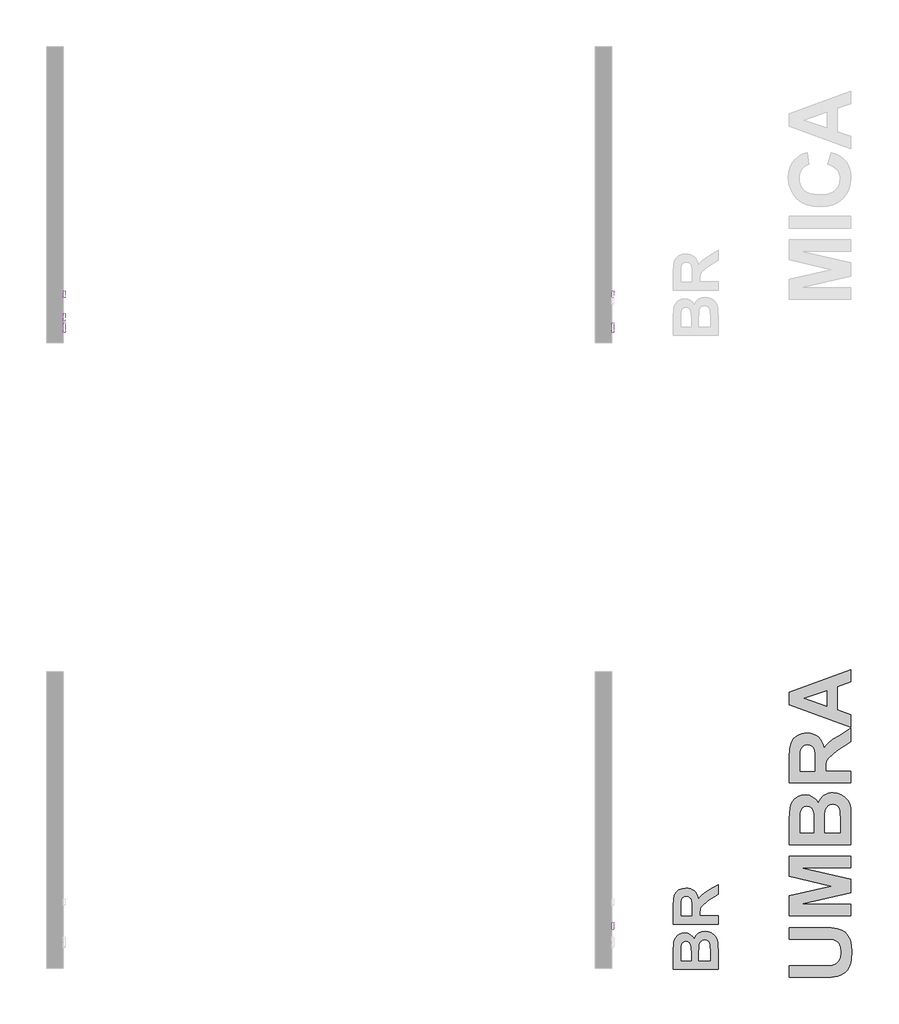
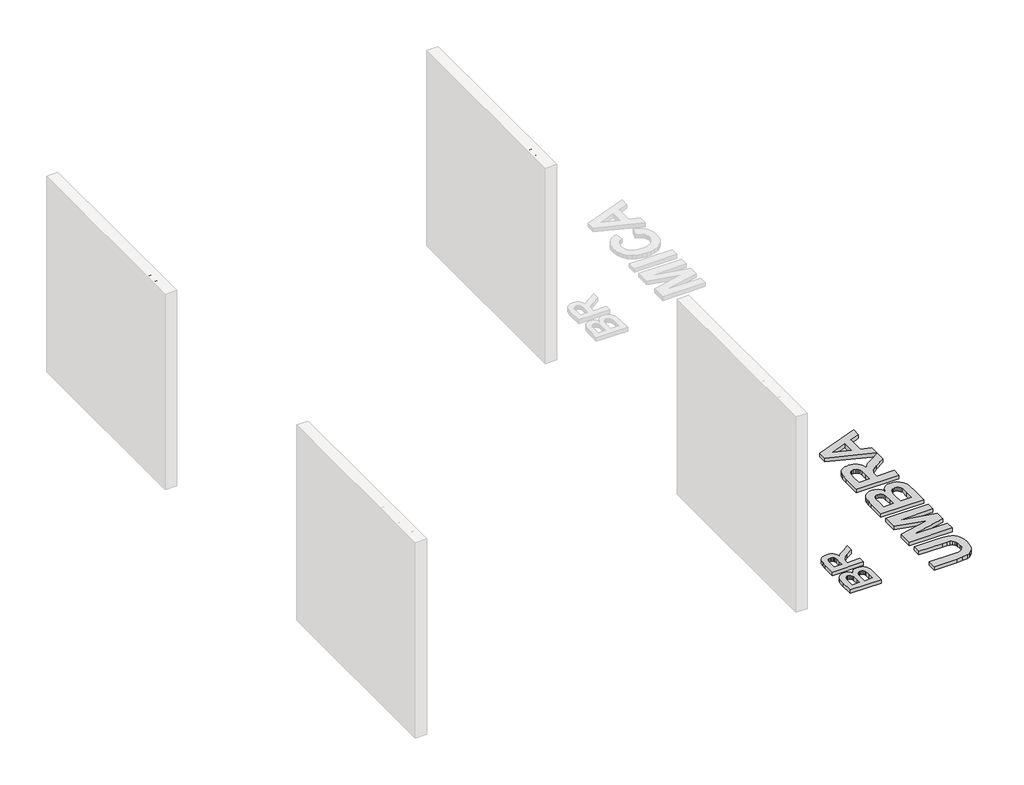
# One storey, part 9 of 10: 8 proxies.
"""IFC4 building model written with IfcOpenShell, lengths in millimetres."""

from ifc_helpers import new_model, si_unit, frame, origin, origin_with_axes, place, context, project, spatial, polyline, outline, extrude, element, save

model = new_model("IFC4")

# Units and contexts
model_context = context("Model", 3, world=origin())
ifc_project = project(units=[si_unit("LENGTHUNIT", "METRE", prefix="MILLI")], contexts=[model_context])

# Site, building, storey
site = spatial("IfcSite", under=ifc_project)
building = spatial("IfcBuilding", under=site)
storey = spatial("IfcBuildingStorey", under=building, Name="PORTOBELLO - SHOWROOM", Elevation=0.0)

# Proxies
placement = place(None, origin())
element("IfcBuildingElementProxy", 1, Name="10mm Arial", ObjectType="10mm Arial", at=placement, inside=storey, context=model_context, shape_type="SweptSolid", body=[
    extrude(outline(polyline([(20865.0222015, 2518.4745677), (20865.0222015, 2618.9308778), (20886.555561, 2618.9308778), (20907.1569527, 2548.1258565), (20911.326282, 2533.3370003), (20915.8144423, 2549.3521298), (20936.0234266, 2618.9308778), (20957.6303624, 2618.9308778), (20957.6303624, 2518.4745677), (20945.0733237, 2518.4745677), (20945.0733237, 2606.373839), (20919.8366188, 2518.4745677), (20902.8404706, 2518.4745677), (20877.5792403, 2606.373839), (20877.5792403, 2518.4745677), (20865.0222015, 2518.4745677)])), frame((-12116.0080774, 0.0, 0.0), z_axis=(1.0, 0.0, 0.0), x_axis=(0.0, 1.0, 0.0)), (0.0, 0.0, 1.0), 20.0),
    extrude(outline(polyline([(-12096.0080774, 20990.5925892), (-12096.0080774, 20978.0355504), (-12116.0080774, 20978.0355504), (-12116.0080774, 20990.5925892), (-12096.0080774, 20990.5925892)])), frame((0.0, 0.0, 2606.373839), z_axis=(0.0, 0.0, 1.0), x_axis=(1.0, 0.0, 0.0)), (0.0, 0.0, 1.0), 12.5570388),
    extrude(outline(polyline([(-12096.0080774, 20990.5925892), (-12096.0080774, 20978.0355504), (-12116.0080774, 20978.0355504), (-12116.0080774, 20990.5925892), (-12096.0080774, 20990.5925892)])), frame((0.0, 0.0, 2518.4745677), z_axis=(0.0, 0.0, 1.0), x_axis=(1.0, 0.0, 0.0)), (0.0, 0.0, 1.0), 73.7726028),
    extrude(outline(polyline([(21056.5170427, 2545.158275), (21069.0740815, 2543.5886452), (21065.5730712, 2532.420361), (21058.9941148, 2523.9805349), (21049.9564805, 2518.6738371), (21039.0794362, 2516.9049378), (21025.7222541, 2519.3728129), (21015.2774711, 2526.776438), (21008.5360335, 2538.7908508), (21006.2888877, 2555.0910889), (21010.1271231, 2575.949998), (21021.8257706, 2589.3531654), (21038.9077579, 2593.8168003), (21049.5180878, 2592.2839586), (21058.0008335, 2587.6854337), (21064.0862148, 2580.2664801), (21067.5044517, 2570.2723526), (21054.9474129, 2568.7027227), (21049.1226146, 2578.1082391), (21039.0058598, 2581.2597615), (21030.8909961, 2579.7085258), (21024.4499955, 2575.0548185), (21020.2469437, 2567.0472538), (21018.8459264, 2555.4344454), (21020.2162869, 2543.6652873), (21024.3273682, 2535.6301314), (21030.6518728, 2531.0040153), (21038.6625032, 2529.4619766), (21050.4960408, 2533.3124748), (21056.5170427, 2545.158275)])), frame((-12116.0080774, 0.0, 0.0), z_axis=(1.0, 0.0, 0.0), x_axis=(0.0, 1.0, 0.0)), (0.0, 0.0, 1.0), 20.0),
    extrude(outline(polyline([(21127.1503858, 2527.8923467), (21114.9734918, 2519.3820099), (21101.5212735, 2516.9049378), (21091.0274396, 2518.3948599), (21083.2865893, 2522.8646261), (21078.5133204, 2529.6520489), (21076.9222307, 2538.0949407), (21079.3257264, 2548.0277546), (21085.641034, 2555.2382417), (21094.4334137, 2559.3585201), (21105.2981953, 2561.246981), (21127.0768094, 2565.563463), (21127.1503858, 2568.3593662), (21123.6922951, 2577.6299925), (21109.8108811, 2581.2597615), (21097.1066895, 2578.8440031), (21091.0488994, 2570.2723526), (21078.4918606, 2571.8419824), (21083.9242514, 2584.1047156), (21094.8626094, 2591.2906772), (21111.4295619, 2593.8168003), (21126.6476138, 2591.5849828), (21135.2437897, 2585.9809138), (21139.0942879, 2577.4583142), (21139.7074246, 2566.4709053), (21139.7074246, 2550.8481832), (21140.3450867, 2529.0327809), (21142.8466843, 2518.4745677), (21130.2896455, 2518.4745677), (21127.1503858, 2527.8923467)]), holes=[polyline([(21127.1503858, 2553.0064243), (21106.8923506, 2549.1559261), (21096.0888827, 2547.1203124), (21091.1960522, 2543.8093744), (21089.4792695, 2538.9778575), (21093.2194031, 2532.1843033), (21104.1945493, 2529.4619766), (21116.8987409, 2532.4663462), (21125.0902466, 2539.738147), (21127.0768094, 2549.4502317), (21127.1503858, 2553.0064243)])]), frame((-12116.0080774, 0.0, 0.0), z_axis=(1.0, 0.0, 0.0), x_axis=(0.0, 1.0, 0.0)), (0.0, 0.0, 1.0), 20.0),
])
element("IfcBuildingElementProxy", 2, Name="10mm Arial", ObjectType="10mm Arial", at=placement, inside=storey, context=model_context, shape_type="SweptSolid", body=[
    extrude(outline(polyline([(20860.313312, 2410.158275), (20872.8703507, 2411.7279049), (20879.1979211, 2398.7907214), (20892.3190456, 2394.4619766), (20901.3198917, 2395.9672271), (20908.064395, 2400.4829786), (20912.2766438, 2407.4880649), (20913.6807267, 2416.4613199), (20908.4200142, 2431.3728034), (20901.8134667, 2435.4746877), (20892.5152493, 2436.8419824), (20881.4910522, 2434.6592159), (20874.4399806, 2428.9938332), (20861.8829418, 2430.563463), (20872.8703507, 2482.361248), (20921.528876, 2482.361248), (20921.528876, 2469.8042092), (20883.0238938, 2469.8042092), (20877.6282912, 2442.1394832), (20886.5984805, 2447.5841367), (20895.9978655, 2449.3990212), (20907.7333012, 2447.1488097), (20917.482174, 2440.3981751), (20924.0488676, 2430.1097419), (20926.2377655, 2417.2461348), (20924.2695968, 2404.6890961), (20918.3650908, 2393.9469418), (20907.0588508, 2384.9154388), (20892.2699946, 2381.9049378), (20879.9367507, 2383.839384), (20870.1112358, 2389.6427224), (20863.3759296, 2398.6405029), (20860.313312, 2410.158275)])), frame((-12116.0080774, 0.0, 0.0), z_axis=(1.0, 0.0, 0.0), x_axis=(0.0, 1.0, 0.0)), (0.0, 0.0, 1.0), 20.0),
    extrude(outline(polyline([(20943.5036938, 2383.4745677), (20943.5036938, 2396.0316064), (20956.0607326, 2396.0316064), (20956.0607326, 2383.4745677), (20953.8043897, 2370.635486), (20946.6429535, 2363.0693797), (20943.5036938, 2367.7782692), (20948.1144815, 2373.1983973), (20949.7576877, 2383.4745677), (20943.5036938, 2383.4745677)])), frame((-12116.0080774, 0.0, 0.0), z_axis=(1.0, 0.0, 0.0), x_axis=(0.0, 1.0, 0.0)), (0.0, 0.0, 1.0), 20.0),
    extrude(outline(polyline([(21017.2762966, 2383.4745677), (21017.2762966, 2407.0190154), (20971.7570311, 2407.0190154), (20971.7570311, 2419.5760541), (21020.4155563, 2482.361248), (21029.8333354, 2482.361248), (21029.8333354, 2419.5760541), (21042.3903741, 2419.5760541), (21042.3903741, 2407.0190154), (21029.8333354, 2407.0190154), (21029.8333354, 2383.4745677), (21017.2762966, 2383.4745677)]), holes=[polyline([(21017.2762966, 2419.5760541), (21017.2762966, 2458.3753419), (20987.2080748, 2419.5760541), (21017.2762966, 2419.5760541)])]), frame((-12116.0080774, 0.0, 0.0), z_axis=(1.0, 0.0, 0.0), x_axis=(0.0, 1.0, 0.0)), (0.0, 0.0, 1.0), 20.0),
    extrude(outline(polyline([(21048.6688935, 2383.4745677), (21075.4997537, 2420.5815982), (21050.2385234, 2457.2471704), (21065.2971597, 2457.2471704), (21077.4863165, 2439.5643092), (21083.2007501, 2431.2501761), (21088.1548943, 2438.0682557), (21102.0363083, 2457.2471704), (21117.1439955, 2457.2471704), (21090.607441, 2420.5570728), (21116.1629769, 2383.4745677), (21101.0798151, 2383.4745677), (21085.6778222, 2405.792742), (21082.8819191, 2409.8884949), (21063.7765808, 2383.4745677), (21048.6688935, 2383.4745677)])), frame((-12116.0080774, 0.0, 0.0), z_axis=(1.0, 0.0, 0.0), x_axis=(0.0, 1.0, 0.0)), (0.0, 0.0, 1.0), 20.0),
    extrude(outline(polyline([(21171.1000215, 2383.4745677), (21158.5429827, 2383.4745677), (21158.5429827, 2461.7598562), (21146.6481316, 2453.2863076), (21133.4289052, 2446.9464746), (21133.4289052, 2458.8168003), (21151.8352677, 2470.5644987), (21163.0066176, 2483.9308778), (21171.1000215, 2483.9308778), (21171.1000215, 2383.4745677)])), frame((-12116.0080774, 0.0, 0.0), z_axis=(1.0, 0.0, 0.0), x_axis=(0.0, 1.0, 0.0)), (0.0, 0.0, 1.0), 20.0),
    extrude(outline(polyline([(21248.011884, 2383.4745677), (21235.4548452, 2383.4745677), (21235.4548452, 2461.7598562), (21223.559994, 2453.2863076), (21210.3407677, 2446.9464746), (21210.3407677, 2458.8168003), (21228.7471301, 2470.5644987), (21239.9184801, 2483.9308778), (21248.011884, 2483.9308778), (21248.011884, 2383.4745677)])), frame((-12116.0080774, 0.0, 0.0), z_axis=(1.0, 0.0, 0.0), x_axis=(0.0, 1.0, 0.0)), (0.0, 0.0, 1.0), 20.0),
    extrude(outline(polyline([(21284.1133704, 2383.4745677), (21284.1133704, 2396.0316064), (21296.6704092, 2396.0316064), (21296.6704092, 2383.4745677), (21294.4140663, 2370.635486), (21287.2526301, 2363.0693797), (21284.1133704, 2367.7782692), (21288.7241581, 2373.1983973), (21290.3673643, 2383.4745677), (21284.1133704, 2383.4745677)])), frame((-12116.0080774, 0.0, 0.0), z_axis=(1.0, 0.0, 0.0), x_axis=(0.0, 1.0, 0.0)), (0.0, 0.0, 1.0), 20.0),
    extrude(outline(polyline([(21317.0755972, 2410.158275), (21329.632636, 2411.7279049), (21335.9602063, 2398.7907214), (21349.0813308, 2394.4619766), (21358.0821769, 2395.9672271), (21364.8266802, 2400.4829786), (21369.038929, 2407.4880649), (21370.443012, 2416.4613199), (21365.1822994, 2431.3728034), (21358.5757519, 2435.4746877), (21349.2775345, 2436.8419824), (21338.2533374, 2434.6592159), (21331.2022658, 2428.9938332), (21318.645227, 2430.563463), (21329.632636, 2482.361248), (21378.2911612, 2482.361248), (21378.2911612, 2469.8042092), (21339.786179, 2469.8042092), (21334.3905764, 2442.1394832), (21343.3607657, 2447.5841367), (21352.7601507, 2449.3990212), (21364.4955864, 2447.1488097), (21374.2444592, 2440.3981751), (21380.8111529, 2430.1097419), (21383.0000507, 2417.2461348), (21381.0318821, 2404.6890961), (21375.127376, 2393.9469418), (21363.821136, 2384.9154388), (21349.0322798, 2381.9049378), (21336.6990359, 2383.839384), (21326.873521, 2389.6427224), (21320.1382148, 2398.6405029), (21317.0755972, 2410.158275)])), frame((-12116.0080774, 0.0, 0.0), z_axis=(1.0, 0.0, 0.0), x_axis=(0.0, 1.0, 0.0)), (0.0, 0.0, 1.0), 20.0),
])
element("IfcBuildingElementProxy", 3, Name="10mm Arial", ObjectType="10mm Arial", at=placement, inside=storey, context=model_context, shape_type="SweptSolid", body=[
    extrude(outline(polyline([(20865.0222015, 2518.4745677), (20865.0222015, 2618.9308778), (20886.555561, 2618.9308778), (20907.1569527, 2548.1258565), (20911.326282, 2533.3370003), (20915.8144423, 2549.3521298), (20936.0234266, 2618.9308778), (20957.6303624, 2618.9308778), (20957.6303624, 2518.4745677), (20945.0733237, 2518.4745677), (20945.0733237, 2606.373839), (20919.8366188, 2518.4745677), (20902.8404706, 2518.4745677), (20877.5792403, 2606.373839), (20877.5792403, 2518.4745677), (20865.0222015, 2518.4745677)])), frame((-7116.0080774, 0.0, 0.0), z_axis=(1.0, 0.0, 0.0), x_axis=(0.0, 1.0, 0.0)), (0.0, 0.0, 1.0), 20.0),
    extrude(outline(polyline([(-7096.0080774, 20990.5925892), (-7096.0080774, 20978.0355504), (-7116.0080774, 20978.0355504), (-7116.0080774, 20990.5925892), (-7096.0080774, 20990.5925892)])), frame((0.0, 0.0, 2606.373839), z_axis=(0.0, 0.0, 1.0), x_axis=(1.0, 0.0, 0.0)), (0.0, 0.0, 1.0), 12.5570388),
    extrude(outline(polyline([(-7096.0080774, 20990.5925892), (-7096.0080774, 20978.0355504), (-7116.0080774, 20978.0355504), (-7116.0080774, 20990.5925892), (-7096.0080774, 20990.5925892)])), frame((0.0, 0.0, 2518.4745677), z_axis=(0.0, 0.0, 1.0), x_axis=(1.0, 0.0, 0.0)), (0.0, 0.0, 1.0), 73.7726028),
    extrude(outline(polyline([(21056.5170427, 2545.158275), (21069.0740815, 2543.5886452), (21065.5730712, 2532.420361), (21058.9941148, 2523.9805349), (21049.9564805, 2518.6738371), (21039.0794362, 2516.9049378), (21025.7222541, 2519.3728129), (21015.2774711, 2526.776438), (21008.5360335, 2538.7908508), (21006.2888877, 2555.0910889), (21010.1271231, 2575.949998), (21021.8257706, 2589.3531654), (21038.9077579, 2593.8168003), (21049.5180878, 2592.2839586), (21058.0008335, 2587.6854337), (21064.0862148, 2580.2664801), (21067.5044517, 2570.2723526), (21054.9474129, 2568.7027227), (21049.1226146, 2578.1082391), (21039.0058598, 2581.2597615), (21030.8909961, 2579.7085258), (21024.4499955, 2575.0548185), (21020.2469437, 2567.0472538), (21018.8459264, 2555.4344454), (21020.2162869, 2543.6652873), (21024.3273682, 2535.6301314), (21030.6518728, 2531.0040153), (21038.6625032, 2529.4619766), (21050.4960408, 2533.3124748), (21056.5170427, 2545.158275)])), frame((-7116.0080774, 0.0, 0.0), z_axis=(1.0, 0.0, 0.0), x_axis=(0.0, 1.0, 0.0)), (0.0, 0.0, 1.0), 20.0),
    extrude(outline(polyline([(21127.1503858, 2527.8923467), (21114.9734918, 2519.3820099), (21101.5212735, 2516.9049378), (21091.0274396, 2518.3948599), (21083.2865893, 2522.8646261), (21078.5133204, 2529.6520489), (21076.9222307, 2538.0949407), (21079.3257264, 2548.0277546), (21085.641034, 2555.2382417), (21094.4334137, 2559.3585201), (21105.2981953, 2561.246981), (21127.0768094, 2565.563463), (21127.1503858, 2568.3593662), (21123.6922951, 2577.6299925), (21109.8108811, 2581.2597615), (21097.1066895, 2578.8440031), (21091.0488994, 2570.2723526), (21078.4918606, 2571.8419824), (21083.9242514, 2584.1047156), (21094.8626094, 2591.2906772), (21111.4295619, 2593.8168003), (21126.6476138, 2591.5849828), (21135.2437897, 2585.9809138), (21139.0942879, 2577.4583142), (21139.7074246, 2566.4709053), (21139.7074246, 2550.8481832), (21140.3450867, 2529.0327809), (21142.8466843, 2518.4745677), (21130.2896455, 2518.4745677), (21127.1503858, 2527.8923467)]), holes=[polyline([(21127.1503858, 2553.0064243), (21106.8923506, 2549.1559261), (21096.0888827, 2547.1203124), (21091.1960522, 2543.8093744), (21089.4792695, 2538.9778575), (21093.2194031, 2532.1843033), (21104.1945493, 2529.4619766), (21116.8987409, 2532.4663462), (21125.0902466, 2539.738147), (21127.0768094, 2549.4502317), (21127.1503858, 2553.0064243)])]), frame((-7116.0080774, 0.0, 0.0), z_axis=(1.0, 0.0, 0.0), x_axis=(0.0, 1.0, 0.0)), (0.0, 0.0, 1.0), 20.0),
])
element("IfcBuildingElementProxy", 4, Name="10mm Arial", ObjectType="10mm Arial", at=placement, inside=storey, context=model_context, shape_type="SweptSolid", body=[
    extrude(outline(polyline([(15207.4022074, 2383.4745677), (15194.8451686, 2383.4745677), (15194.8451686, 2461.7598562), (15182.9503174, 2453.2863076), (15169.7310911, 2446.9464746), (15169.7310911, 2458.8168003), (15188.1374535, 2470.5644987), (15199.3088035, 2483.9308778), (15207.4022074, 2483.9308778), (15207.4022074, 2383.4745677)])), frame((-7116.0080774, 0.0, 0.0), z_axis=(1.0, 0.0, 0.0), x_axis=(0.0, 1.0, 0.0)), (0.0, 0.0, 1.0), 20.0),
    extrude(outline(polyline([(15284.3140698, 2383.4745677), (15271.7570311, 2383.4745677), (15271.7570311, 2461.7598562), (15259.8621799, 2453.2863076), (15246.6429535, 2446.9464746), (15246.6429535, 2458.8168003), (15265.049316, 2470.5644987), (15276.2206659, 2483.9308778), (15284.3140698, 2483.9308778), (15284.3140698, 2383.4745677)])), frame((-7116.0080774, 0.0, 0.0), z_axis=(1.0, 0.0, 0.0), x_axis=(0.0, 1.0, 0.0)), (0.0, 0.0, 1.0), 20.0),
    extrude(outline(polyline([(15320.4155563, 2383.4745677), (15320.4155563, 2396.0316064), (15332.972595, 2396.0316064), (15332.972595, 2383.4745677), (15330.7162521, 2370.635486), (15323.554816, 2363.0693797), (15320.4155563, 2367.7782692), (15325.026344, 2373.1983973), (15326.6695502, 2383.4745677), (15320.4155563, 2383.4745677)])), frame((-7116.0080774, 0.0, 0.0), z_axis=(1.0, 0.0, 0.0), x_axis=(0.0, 1.0, 0.0)), (0.0, 0.0, 1.0), 20.0),
    extrude(outline(polyline([(15353.377783, 2410.158275), (15365.9348218, 2411.7279049), (15372.2623921, 2398.7907214), (15385.3835166, 2394.4619766), (15394.3843628, 2395.9672271), (15401.128866, 2400.4829786), (15405.3411149, 2407.4880649), (15406.7451978, 2416.4613199), (15401.4844853, 2431.3728034), (15394.8779378, 2435.4746877), (15385.5797204, 2436.8419824), (15374.5555232, 2434.6592159), (15367.5044517, 2428.9938332), (15354.9474129, 2430.563463), (15365.9348218, 2482.361248), (15414.593347, 2482.361248), (15414.593347, 2469.8042092), (15376.0883649, 2469.8042092), (15370.6927623, 2442.1394832), (15379.6629516, 2447.5841367), (15389.0623366, 2449.3990212), (15400.7977722, 2447.1488097), (15410.5466451, 2440.3981751), (15417.1133387, 2430.1097419), (15419.3022366, 2417.2461348), (15417.3340679, 2404.6890961), (15411.4295619, 2393.9469418), (15400.1233219, 2384.9154388), (15385.3344657, 2381.9049378), (15373.0012218, 2383.839384), (15363.1757069, 2389.6427224), (15356.4404007, 2398.6405029), (15353.377783, 2410.158275)])), frame((-7116.0080774, 0.0, 0.0), z_axis=(1.0, 0.0, 0.0), x_axis=(0.0, 1.0, 0.0)), (0.0, 0.0, 1.0), 20.0),
    extrude(outline(polyline([(15425.580756, 2383.4745677), (15452.4116161, 2420.5815982), (15427.1503858, 2457.2471704), (15442.2090221, 2457.2471704), (15454.3981789, 2439.5643092), (15460.1126126, 2431.2501761), (15465.0667568, 2438.0682557), (15478.9481707, 2457.2471704), (15494.055858, 2457.2471704), (15467.5193034, 2420.5570728), (15493.0748393, 2383.4745677), (15477.9916775, 2383.4745677), (15462.5896847, 2405.792742), (15459.7937815, 2409.8884949), (15440.6884432, 2383.4745677), (15425.580756, 2383.4745677)])), frame((-7116.0080774, 0.0, 0.0), z_axis=(1.0, 0.0, 0.0), x_axis=(0.0, 1.0, 0.0)), (0.0, 0.0, 1.0), 20.0),
    extrude(outline(polyline([(15548.011884, 2383.4745677), (15535.4548452, 2383.4745677), (15535.4548452, 2461.7598562), (15523.559994, 2453.2863076), (15510.3407677, 2446.9464746), (15510.3407677, 2458.8168003), (15528.7471301, 2470.5644987), (15539.9184801, 2483.9308778), (15548.011884, 2483.9308778), (15548.011884, 2383.4745677)])), frame((-7116.0080774, 0.0, 0.0), z_axis=(1.0, 0.0, 0.0), x_axis=(0.0, 1.0, 0.0)), (0.0, 0.0, 1.0), 20.0),
    extrude(outline(polyline([(15624.9237464, 2383.4745677), (15612.3667077, 2383.4745677), (15612.3667077, 2461.7598562), (15600.4718565, 2453.2863076), (15587.2526301, 2446.9464746), (15587.2526301, 2458.8168003), (15605.6589926, 2470.5644987), (15616.8303425, 2483.9308778), (15624.9237464, 2483.9308778), (15624.9237464, 2383.4745677)])), frame((-7116.0080774, 0.0, 0.0), z_axis=(1.0, 0.0, 0.0), x_axis=(0.0, 1.0, 0.0)), (0.0, 0.0, 1.0), 20.0),
    extrude(outline(polyline([(15661.0252329, 2383.4745677), (15661.0252329, 2396.0316064), (15673.5822716, 2396.0316064), (15673.5822716, 2383.4745677), (15671.3259287, 2370.635486), (15664.1644926, 2363.0693797), (15661.0252329, 2367.7782692), (15665.6360206, 2373.1983973), (15667.2792268, 2383.4745677), (15661.0252329, 2383.4745677)])), frame((-7116.0080774, 0.0, 0.0), z_axis=(1.0, 0.0, 0.0), x_axis=(0.0, 1.0, 0.0)), (0.0, 0.0, 1.0), 20.0),
    extrude(outline(polyline([(15693.9874596, 2410.158275), (15706.5444984, 2411.7279049), (15712.8720687, 2398.7907214), (15725.9931932, 2394.4619766), (15734.9940394, 2395.9672271), (15741.7385426, 2400.4829786), (15745.9507915, 2407.4880649), (15747.3548744, 2416.4613199), (15742.0941619, 2431.3728034), (15735.4876144, 2435.4746877), (15726.189397, 2436.8419824), (15715.1651998, 2434.6592159), (15708.1141283, 2428.9938332), (15695.5570895, 2430.563463), (15706.5444984, 2482.361248), (15755.2030236, 2482.361248), (15755.2030236, 2469.8042092), (15716.6980415, 2469.8042092), (15711.3024389, 2442.1394832), (15720.2726282, 2447.5841367), (15729.6720132, 2449.3990212), (15741.4074488, 2447.1488097), (15751.1563217, 2440.3981751), (15757.7230153, 2430.1097419), (15759.9119132, 2417.2461348), (15757.9437445, 2404.6890961), (15752.0392385, 2393.9469418), (15740.7329985, 2384.9154388), (15725.9441423, 2381.9049378), (15713.6108984, 2383.839384), (15703.7853835, 2389.6427224), (15697.0500773, 2398.6405029), (15693.9874596, 2410.158275)])), frame((-7116.0080774, 0.0, 0.0), z_axis=(1.0, 0.0, 0.0), x_axis=(0.0, 1.0, 0.0)), (0.0, 0.0, 1.0), 20.0),
])
element("IfcBuildingElementProxy", 5, Name="10mm Arial Narrow", ObjectType="10mm Arial Narrow", at=placement, inside=storey, context=model_context, shape_type="SweptSolid", body=[
    extrude(outline(polyline([(21186.9277964, 2518.4745677), (21186.9277964, 2615.7916181), (21217.1676964, 2615.7916181), (21232.9130458, 2613.9767336), (21243.9985566, 2604.8164719), (21248.1433604, 2588.3721467), (21246.4173807, 2576.7041561), (21241.2394416, 2567.402873), (21231.8247282, 2561.314426), (21217.3884256, 2559.2849437), (21196.3455754, 2559.2849437), (21196.3455754, 2518.4745677), (21186.9277964, 2518.4745677)]), holes=[polyline([(21196.3455754, 2570.2723526), (21218.5411225, 2570.2723526), (21233.869539, 2574.6501483), (21238.7255813, 2587.857112), (21236.3343483, 2597.6795612), (21230.558601, 2603.2836303), (21218.3203933, 2604.8042092), (21196.3455754, 2604.8042092), (21196.3455754, 2570.2723526)])]), frame((-12116.0080774, 0.0, 0.0), z_axis=(1.0, 0.0, 0.0), x_axis=(0.0, 1.0, 0.0)), (0.0, 0.0, 1.0), 20.0),
    extrude(outline(polyline([(21255.9915096, 2553.7912392), (21257.8799705, 2569.8216971), (21263.5453532, 2581.3701261), (21272.104741, 2588.350687), (21282.675217, 2590.6775406), (21293.1230656, 2588.350687), (21301.7069789, 2581.3701261), (21307.445938, 2570.0056381), (21309.3589244, 2554.5270032), (21307.4796605, 2537.9447223), (21301.8418689, 2526.2123523), (21293.2916782, 2519.2317914), (21282.675217, 2516.9049378), (21272.1813831, 2519.2379228), (21263.6066669, 2526.2368778), (21257.8952989, 2537.7914381), (21255.9915096, 2553.7912392)]), holes=[polyline([(21265.4092887, 2553.8157647), (21266.6692845, 2541.6879216), (21270.449272, 2533.1162711), (21276.093195, 2528.0211054), (21282.9449971, 2526.3227169), (21289.4381143, 2528.0364339), (21294.9379502, 2533.1775847), (21298.6903465, 2541.7645636), (21299.9411453, 2553.8157647), (21298.6811495, 2565.9068196), (21294.901162, 2574.4662073), (21289.257239, 2579.561373), (21282.4054369, 2581.2597615), (21275.8663344, 2579.5521759), (21270.3756956, 2574.4294191), (21266.6508904, 2565.8608343), (21265.4092887, 2553.8157647)])]), frame((-12116.0080774, 0.0, 0.0), z_axis=(1.0, 0.0, 0.0), x_axis=(0.0, 1.0, 0.0)), (0.0, 0.0, 1.0), 20.0),
    extrude(outline(polyline([(21378.4226376, 2526.3227169), (21379.9922674, 2516.9049378), (21372.8798822, 2516.9049378), (21364.8845802, 2518.9528143), (21360.7152509, 2524.5568833), (21359.5870794, 2538.7080774), (21359.5870794, 2579.6901317), (21351.7389302, 2579.6901317), (21351.7389302, 2582.8293914), (21350.1693004, 2578.1205018), (21342.8607114, 2579.6901317), (21336.9868622, 2577.4460515), (21333.2467286, 2571.1797948), (21331.3337422, 2556.2928368), (21331.3337422, 2518.4745677), (21321.9159631, 2518.4745677), (21321.9159631, 2589.1079107), (21331.3337422, 2589.1079107), (21331.3337422, 2579.7391826), (21337.3670069, 2588.5192995), (21343.5474244, 2590.6775406), (21351.7389302, 2589.1079107), (21359.5870794, 2589.1079107), (21359.5870794, 2604.8042092), (21369.0048585, 2612.6523584), (21369.0048585, 2589.1079107), (21378.4226376, 2589.1079107), (21378.4226376, 2579.6901317), (21369.0048585, 2579.6901317), (21369.0048585, 2536.5498364), (21369.8387244, 2528.8243145), (21374.3023592, 2526.3227169), (21378.4226376, 2526.3227169)])), frame((-12116.0080774, 0.0, 0.0), z_axis=(1.0, 0.0, 0.0), x_axis=(0.0, 1.0, 0.0)), (0.0, 0.0, 1.0), 20.0),
    extrude(outline(polyline([(21384.701157, 2553.7912392), (21386.5896179, 2569.8216971), (21392.2550006, 2581.3701261), (21400.8143884, 2588.350687), (21411.3848644, 2590.6775406), (21421.832713, 2588.350687), (21430.4166262, 2581.3701261), (21436.1555854, 2570.0056381), (21438.0685717, 2554.5270032), (21436.1893079, 2537.9447223), (21430.5515163, 2526.2123523), (21422.0013256, 2519.2317914), (21411.3848644, 2516.9049378), (21400.8910304, 2519.2379228), (21392.3163143, 2526.2368778), (21386.6049463, 2537.7914381), (21384.701157, 2553.7912392)]), holes=[polyline([(21394.1189361, 2553.8157647), (21395.3789319, 2541.6879216), (21399.1589194, 2533.1162711), (21404.8028423, 2528.0211054), (21411.6546445, 2526.3227169), (21418.1477617, 2528.0364339), (21423.6475975, 2533.1775847), (21427.3999939, 2541.7645636), (21428.6507927, 2553.8157647), (21427.3907968, 2565.9068196), (21423.6108093, 2574.4662073), (21417.9668864, 2579.561373), (21411.1150842, 2581.2597615), (21404.5759818, 2579.5521759), (21399.085343, 2574.4294191), (21395.3605378, 2565.8608343), (21394.1189361, 2553.8157647)])]), frame((-12116.0080774, 0.0, 0.0), z_axis=(1.0, 0.0, 0.0), x_axis=(0.0, 1.0, 0.0)), (0.0, 0.0, 1.0), 20.0),
    extrude(outline(polyline([(21460.0433896, 2518.4745677), (21450.6256105, 2518.4745677), (21450.6256105, 2615.7916181), (21460.0433896, 2615.7916181), (21460.0433896, 2581.5785926), (21467.192563, 2588.4211977), (21476.0830446, 2590.6775406), (21488.5297187, 2586.6185759), (21497.4937767, 2574.3190545), (21500.8537656, 2554.3307995), (21498.9867645, 2538.4321659), (21493.3857611, 2526.641548), (21485.2954229, 2519.3390904), (21475.9604172, 2516.9049378), (21466.9350456, 2519.4310609), (21460.0433896, 2526.9358536), (21460.0433896, 2518.4745677)]), holes=[polyline([(21460.0433896, 2554.3307995), (21462.0544778, 2537.6657451), (21467.744386, 2529.2289847), (21475.9113663, 2526.3227169), (21481.6533911, 2528.0517623), (21486.7148342, 2533.2388984), (21491.4359865, 2553.938392), (21486.8865125, 2574.6501483), (21481.818938, 2579.6073582), (21475.7151626, 2581.2597615), (21469.9394153, 2579.5307161), (21464.8258555, 2574.34358), (21460.0433896, 2554.3307995)])]), frame((-12116.0080774, 0.0, 0.0), z_axis=(1.0, 0.0, 0.0), x_axis=(0.0, 1.0, 0.0)), (0.0, 0.0, 1.0), 20.0),
    extrude(outline(polyline([(21551.0819207, 2540.4493855), (21560.4996997, 2538.8797557), (21551.3026499, 2522.4476932), (21534.8215365, 2516.9049378), (21523.6195297, 2519.2379228), (21514.7842305, 2526.2368778), (21509.0452713, 2537.6442853), (21507.132285, 2553.202628), (21509.0544684, 2569.3066623), (21514.8210187, 2581.0758205), (21523.5306249, 2588.2771106), (21534.2819762, 2590.6775406), (21544.6041319, 2588.359884), (21553.0562207, 2581.4069143), (21558.6940123, 2570.0638861), (21560.5732761, 2554.5760541), (21560.4996997, 2551.4367944), (21516.550064, 2551.4367944), (21522.3503368, 2532.6502872), (21528.0800989, 2527.9046095), (21534.9441638, 2526.3227169), (21544.7788758, 2529.854384), (21551.0819207, 2540.4493855)]), holes=[polyline([(21517.1877262, 2560.8545735), (21551.0819207, 2560.8545735), (21546.9616423, 2574.6378856), (21541.3330478, 2579.6042925), (21534.3555526, 2581.2597615), (21522.5588033, 2575.7415316), (21517.1877262, 2560.8545735)])]), frame((-12116.0080774, 0.0, 0.0), z_axis=(1.0, 0.0, 0.0), x_axis=(0.0, 1.0, 0.0)), (0.0, 0.0, 1.0), 20.0),
    extrude(outline(polyline([(-12096.0080774, 21582.4745176), (-12096.0080774, 21573.0567385), (-12116.0080774, 21573.0567385), (-12116.0080774, 21582.4745176), (-12096.0080774, 21582.4745176)])), frame((0.0, 0.0, 2518.4745677), z_axis=(0.0, 0.0, 1.0), x_axis=(1.0, 0.0, 0.0)), (0.0, 0.0, 1.0), 97.3170505),
    extrude(outline(polyline([(-12096.0080774, 21607.5885951), (-12096.0080774, 21598.170816), (-12116.0080774, 21598.170816), (-12116.0080774, 21607.5885951), (-12096.0080774, 21607.5885951)])), frame((0.0, 0.0, 2518.4745677), z_axis=(0.0, 0.0, 1.0), x_axis=(1.0, 0.0, 0.0)), (0.0, 0.0, 1.0), 97.3170505),
    extrude(outline(polyline([(21618.576004, 2553.7912392), (21620.464465, 2569.8216971), (21626.1298477, 2581.3701261), (21634.6892354, 2588.350687), (21645.2597114, 2590.6775406), (21655.7075601, 2588.350687), (21664.2914733, 2581.3701261), (21670.0304324, 2570.0056381), (21671.9434188, 2554.5270032), (21670.064155, 2537.9447223), (21664.4263634, 2526.2123523), (21655.8761727, 2519.2317914), (21645.2597114, 2516.9049378), (21634.7658775, 2519.2379228), (21626.1911613, 2526.2368778), (21620.4797934, 2537.7914381), (21618.576004, 2553.7912392)]), holes=[polyline([(21627.9937831, 2553.8157647), (21629.253779, 2541.6879216), (21633.0337665, 2533.1162711), (21638.6776894, 2528.0211054), (21645.5294916, 2526.3227169), (21652.0226088, 2528.0364339), (21657.5224446, 2533.1775847), (21661.274841, 2541.7645636), (21662.5256397, 2553.8157647), (21661.2656439, 2565.9068196), (21657.4856564, 2574.4662073), (21651.8417335, 2579.561373), (21644.9899313, 2581.2597615), (21638.4508288, 2579.5521759), (21632.9601901, 2574.4294191), (21629.2353849, 2565.8608343), (21627.9937831, 2553.8157647)])]), frame((-12116.0080774, 0.0, 0.0), z_axis=(1.0, 0.0, 0.0), x_axis=(0.0, 1.0, 0.0)), (0.0, 0.0, 1.0), 20.0),
])
element("IfcBuildingElementProxy", 6, Name="10mm Arial Narrow", ObjectType="10mm Arial Narrow", at=placement, inside=storey, context=model_context, shape_type="SweptSolid", body=[
    extrude(outline(polyline([(21186.9277964, 2518.4745677), (21186.9277964, 2615.7916181), (21217.1676964, 2615.7916181), (21232.9130458, 2613.9767336), (21243.9985566, 2604.8164719), (21248.1433604, 2588.3721467), (21246.4173807, 2576.7041561), (21241.2394416, 2567.402873), (21231.8247282, 2561.314426), (21217.3884256, 2559.2849437), (21196.3455754, 2559.2849437), (21196.3455754, 2518.4745677), (21186.9277964, 2518.4745677)]), holes=[polyline([(21196.3455754, 2570.2723526), (21218.5411225, 2570.2723526), (21233.869539, 2574.6501483), (21238.7255813, 2587.857112), (21236.3343483, 2597.6795612), (21230.558601, 2603.2836303), (21218.3203933, 2604.8042092), (21196.3455754, 2604.8042092), (21196.3455754, 2570.2723526)])]), frame((-7116.0080774, 0.0, 0.0), z_axis=(1.0, 0.0, 0.0), x_axis=(0.0, 1.0, 0.0)), (0.0, 0.0, 1.0), 20.0),
    extrude(outline(polyline([(21255.9915096, 2553.7912392), (21257.8799705, 2569.8216971), (21263.5453532, 2581.3701261), (21272.104741, 2588.350687), (21282.675217, 2590.6775406), (21293.1230656, 2588.350687), (21301.7069789, 2581.3701261), (21307.445938, 2570.0056381), (21309.3589244, 2554.5270032), (21307.4796605, 2537.9447223), (21301.8418689, 2526.2123523), (21293.2916782, 2519.2317914), (21282.675217, 2516.9049378), (21272.1813831, 2519.2379228), (21263.6066669, 2526.2368778), (21257.8952989, 2537.7914381), (21255.9915096, 2553.7912392)]), holes=[polyline([(21265.4092887, 2553.8157647), (21266.6692845, 2541.6879216), (21270.449272, 2533.1162711), (21276.093195, 2528.0211054), (21282.9449971, 2526.3227169), (21289.4381143, 2528.0364339), (21294.9379502, 2533.1775847), (21298.6903465, 2541.7645636), (21299.9411453, 2553.8157647), (21298.6811495, 2565.9068196), (21294.901162, 2574.4662073), (21289.257239, 2579.561373), (21282.4054369, 2581.2597615), (21275.8663344, 2579.5521759), (21270.3756956, 2574.4294191), (21266.6508904, 2565.8608343), (21265.4092887, 2553.8157647)])]), frame((-7116.0080774, 0.0, 0.0), z_axis=(1.0, 0.0, 0.0), x_axis=(0.0, 1.0, 0.0)), (0.0, 0.0, 1.0), 20.0),
    extrude(outline(polyline([(21378.4226376, 2526.3227169), (21379.9922674, 2516.9049378), (21372.8798822, 2516.9049378), (21364.8845802, 2518.9528143), (21360.7152509, 2524.5568833), (21359.5870794, 2538.7080774), (21359.5870794, 2579.6901317), (21351.7389302, 2579.6901317), (21351.7389302, 2582.8293914), (21350.1693004, 2578.1205018), (21342.8607114, 2579.6901317), (21336.9868622, 2577.4460515), (21333.2467286, 2571.1797948), (21331.3337422, 2556.2928368), (21331.3337422, 2518.4745677), (21321.9159631, 2518.4745677), (21321.9159631, 2589.1079107), (21331.3337422, 2589.1079107), (21331.3337422, 2579.7391826), (21337.3670069, 2588.5192995), (21343.5474244, 2590.6775406), (21351.7389302, 2589.1079107), (21359.5870794, 2589.1079107), (21359.5870794, 2604.8042092), (21369.0048585, 2612.6523584), (21369.0048585, 2589.1079107), (21378.4226376, 2589.1079107), (21378.4226376, 2579.6901317), (21369.0048585, 2579.6901317), (21369.0048585, 2536.5498364), (21369.8387244, 2528.8243145), (21374.3023592, 2526.3227169), (21378.4226376, 2526.3227169)])), frame((-7116.0080774, 0.0, 0.0), z_axis=(1.0, 0.0, 0.0), x_axis=(0.0, 1.0, 0.0)), (0.0, 0.0, 1.0), 20.0),
    extrude(outline(polyline([(21384.701157, 2553.7912392), (21386.5896179, 2569.8216971), (21392.2550006, 2581.3701261), (21400.8143884, 2588.350687), (21411.3848644, 2590.6775406), (21421.832713, 2588.350687), (21430.4166262, 2581.3701261), (21436.1555854, 2570.0056381), (21438.0685717, 2554.5270032), (21436.1893079, 2537.9447223), (21430.5515163, 2526.2123523), (21422.0013256, 2519.2317914), (21411.3848644, 2516.9049378), (21400.8910304, 2519.2379228), (21392.3163143, 2526.2368778), (21386.6049463, 2537.7914381), (21384.701157, 2553.7912392)]), holes=[polyline([(21394.1189361, 2553.8157647), (21395.3789319, 2541.6879216), (21399.1589194, 2533.1162711), (21404.8028423, 2528.0211054), (21411.6546445, 2526.3227169), (21418.1477617, 2528.0364339), (21423.6475975, 2533.1775847), (21427.3999939, 2541.7645636), (21428.6507927, 2553.8157647), (21427.3907968, 2565.9068196), (21423.6108093, 2574.4662073), (21417.9668864, 2579.561373), (21411.1150842, 2581.2597615), (21404.5759818, 2579.5521759), (21399.085343, 2574.4294191), (21395.3605378, 2565.8608343), (21394.1189361, 2553.8157647)])]), frame((-7116.0080774, 0.0, 0.0), z_axis=(1.0, 0.0, 0.0), x_axis=(0.0, 1.0, 0.0)), (0.0, 0.0, 1.0), 20.0),
    extrude(outline(polyline([(21460.0433896, 2518.4745677), (21450.6256105, 2518.4745677), (21450.6256105, 2615.7916181), (21460.0433896, 2615.7916181), (21460.0433896, 2581.5785926), (21467.192563, 2588.4211977), (21476.0830446, 2590.6775406), (21488.5297187, 2586.6185759), (21497.4937767, 2574.3190545), (21500.8537656, 2554.3307995), (21498.9867645, 2538.4321659), (21493.3857611, 2526.641548), (21485.2954229, 2519.3390904), (21475.9604172, 2516.9049378), (21466.9350456, 2519.4310609), (21460.0433896, 2526.9358536), (21460.0433896, 2518.4745677)]), holes=[polyline([(21460.0433896, 2554.3307995), (21462.0544778, 2537.6657451), (21467.744386, 2529.2289847), (21475.9113663, 2526.3227169), (21481.6533911, 2528.0517623), (21486.7148342, 2533.2388984), (21491.4359865, 2553.938392), (21486.8865125, 2574.6501483), (21481.818938, 2579.6073582), (21475.7151626, 2581.2597615), (21469.9394153, 2579.5307161), (21464.8258555, 2574.34358), (21460.0433896, 2554.3307995)])]), frame((-7116.0080774, 0.0, 0.0), z_axis=(1.0, 0.0, 0.0), x_axis=(0.0, 1.0, 0.0)), (0.0, 0.0, 1.0), 20.0),
    extrude(outline(polyline([(21551.0819207, 2540.4493855), (21560.4996997, 2538.8797557), (21551.3026499, 2522.4476932), (21534.8215365, 2516.9049378), (21523.6195297, 2519.2379228), (21514.7842305, 2526.2368778), (21509.0452713, 2537.6442853), (21507.132285, 2553.202628), (21509.0544684, 2569.3066623), (21514.8210187, 2581.0758205), (21523.5306249, 2588.2771106), (21534.2819762, 2590.6775406), (21544.6041319, 2588.359884), (21553.0562207, 2581.4069143), (21558.6940123, 2570.0638861), (21560.5732761, 2554.5760541), (21560.4996997, 2551.4367944), (21516.550064, 2551.4367944), (21522.3503368, 2532.6502872), (21528.0800989, 2527.9046095), (21534.9441638, 2526.3227169), (21544.7788758, 2529.854384), (21551.0819207, 2540.4493855)]), holes=[polyline([(21517.1877262, 2560.8545735), (21551.0819207, 2560.8545735), (21546.9616423, 2574.6378856), (21541.3330478, 2579.6042925), (21534.3555526, 2581.2597615), (21522.5588033, 2575.7415316), (21517.1877262, 2560.8545735)])]), frame((-7116.0080774, 0.0, 0.0), z_axis=(1.0, 0.0, 0.0), x_axis=(0.0, 1.0, 0.0)), (0.0, 0.0, 1.0), 20.0),
    extrude(outline(polyline([(-7096.0080774, 21582.4745176), (-7096.0080774, 21573.0567385), (-7116.0080774, 21573.0567385), (-7116.0080774, 21582.4745176), (-7096.0080774, 21582.4745176)])), frame((0.0, 0.0, 2518.4745677), z_axis=(0.0, 0.0, 1.0), x_axis=(1.0, 0.0, 0.0)), (0.0, 0.0, 1.0), 97.3170505),
    extrude(outline(polyline([(-7096.0080774, 21607.5885951), (-7096.0080774, 21598.170816), (-7116.0080774, 21598.170816), (-7116.0080774, 21607.5885951), (-7096.0080774, 21607.5885951)])), frame((0.0, 0.0, 2518.4745677), z_axis=(0.0, 0.0, 1.0), x_axis=(1.0, 0.0, 0.0)), (0.0, 0.0, 1.0), 97.3170505),
    extrude(outline(polyline([(21618.576004, 2553.7912392), (21620.464465, 2569.8216971), (21626.1298477, 2581.3701261), (21634.6892354, 2588.350687), (21645.2597114, 2590.6775406), (21655.7075601, 2588.350687), (21664.2914733, 2581.3701261), (21670.0304324, 2570.0056381), (21671.9434188, 2554.5270032), (21670.064155, 2537.9447223), (21664.4263634, 2526.2123523), (21655.8761727, 2519.2317914), (21645.2597114, 2516.9049378), (21634.7658775, 2519.2379228), (21626.1911613, 2526.2368778), (21620.4797934, 2537.7914381), (21618.576004, 2553.7912392)]), holes=[polyline([(21627.9937831, 2553.8157647), (21629.253779, 2541.6879216), (21633.0337665, 2533.1162711), (21638.6776894, 2528.0211054), (21645.5294916, 2526.3227169), (21652.0226088, 2528.0364339), (21657.5224446, 2533.1775847), (21661.274841, 2541.7645636), (21662.5256397, 2553.8157647), (21661.2656439, 2565.9068196), (21657.4856564, 2574.4662073), (21651.8417335, 2579.561373), (21644.9899313, 2581.2597615), (21638.4508288, 2579.5521759), (21632.9601901, 2574.4294191), (21629.2353849, 2565.8608343), (21627.9937831, 2553.8157647)])]), frame((-7116.0080774, 0.0, 0.0), z_axis=(1.0, 0.0, 0.0), x_axis=(0.0, 1.0, 0.0)), (0.0, 0.0, 1.0), 20.0),
])
element("IfcBuildingElementProxy", 7, Name="400mm Arial", ObjectType="400mm Arial", at=placement, inside=storey, context=model_context, shape_type="SweptSolid", body=[
    extrude(outline(polyline([(-6554.2616634, 15067.7595444), (-6554.2616634, 15235.2723725), (-6550.213015, 15309.4132465), (-6543.9502619, 15332.5664546), (-6533.2592997, 15353.1386494), (-6518.2286925, 15370.8135301), (-6498.9470044, 15385.2747961), (-6476.2366172, 15394.9156402), (-6450.9199126, 15398.1292548), (-6423.3384953, 15394.2956909), (-6398.0850509, 15382.794999), (-6377.0067751, 15364.7152534), (-6361.9508638, 15341.1445284), (-6347.3251214, 15370.9527024), (-6325.1081632, 15392.9672281), (-6296.7929284, 15406.5555044), (-6263.872356, 15411.0849298), (-6236.5313272, 15407.833359), (-6209.974724, 15398.0786467), (-6186.4419551, 15382.6937828), (-6168.1724291, 15362.5517569), (-6155.5330549, 15337.4121807), (-6148.8907411, 15307.0346656), (-6146.1579034, 15207.2354822), (-6146.1579034, 15067.7595444), (-6554.2616634, 15067.7595444)]), holes=[polyline([(-6483.0054513, 15145.4935939), (-6392.3157269, 15145.4935939), (-6392.3157269, 15204.8062932), (-6393.6315376, 15270.5968299), (-6398.3633954, 15291.3081969), (-6407.7005908, 15307.0852737), (-6421.1876509, 15317.0677224), (-6438.3691026, 15320.3952053), (-6454.8040847, 15317.5231954), (-6467.8736279, 15308.9071655), (-6477.0210429, 15294.6483318), (-6481.6896406, 15274.8479107), (-6483.0054513, 15197.518726), (-6483.0054513, 15145.4935939)]), polyline([(-6321.0595148, 15145.4935939), (-6217.4141154, 15145.4935939), (-6217.4141154, 15227.6811567), (-6219.8433045, 15288.6133153), (-6225.2710238, 15306.6044967), (-6235.2787766, 15320.9012864), (-6249.6641305, 15330.2384818), (-6268.224653, 15333.3508802), (-6284.3180305, 15330.9469953), (-6297.7797864, 15323.7353403), (-6308.2809683, 15311.9942599), (-6315.4926232, 15296.0020986), (-6319.6677919, 15267.2566949), (-6321.0595148, 15217.255887), (-6321.0595148, 15145.4935939)])]), origin_with_axes(), (0.0, 0.0, 1.0), 50.0),
    extrude(outline(polyline([(-6146.1579034, 15475.8633044), (-6554.2616634, 15475.8633044), (-6554.2616634, 15647.5259971), (-6551.5035216, 15703.4479533), (-6543.2290964, 15741.6570727), (-6527.8948406, 15768.0745035), (-6503.9572068, 15788.6213942), (-6473.6682559, 15801.8301097), (-6439.2800485, 15806.2330148), (-6417.2085886, 15804.6420225), (-6397.1488009, 15799.8690456), (-6379.1006854, 15791.9140841), (-6363.0642421, 15780.7771379), (-6349.4253577, 15766.4708592), (-6338.5699192, 15749.0078999), (-6330.4979264, 15728.3882601), (-6325.2093794, 15704.6119397), (-6308.9641777, 15727.1578505), (-6291.2007328, 15745.4020724), (-6265.4665113, 15764.2788957), (-6225.3089798, 15788.7226104), (-6146.1579034, 15838.6222021), (-6146.1579034, 15747.8312615), (-6239.3780331, 15688.7209947), (-6294.692692, 15642.3133622), (-6304.29558, 15629.4335995), (-6310.3305965, 15615.7947151), (-6314.5816773, 15571.4114069), (-6314.5816773, 15553.5973539), (-6146.1579034, 15553.5973539), (-6146.1579034, 15475.8633044)]), holes=[polyline([(-6385.8378894, 15553.5973539), (-6385.8378894, 15617.667215), (-6387.0145279, 15668.2373641), (-6390.5444432, 15695.4518726), (-6396.9463685, 15709.2931894), (-6406.7390368, 15719.7437631), (-6419.6567557, 15726.3101648), (-6435.4338325, 15728.4989653), (-6452.9062808, 15725.6143033), (-6466.6590333, 15716.9603173), (-6476.3631375, 15703.0430884), (-6481.6896406, 15684.3686976), (-6483.0054513, 15621.2097824), (-6483.0054513, 15553.5973539), (-6385.8378894, 15553.5973539)])]), origin_with_axes(), (0.0, 0.0, 1.0), 50.0),
])
element("IfcBuildingElementProxy", 8, Name="550mm Arial", ObjectType="550mm Arial", at=placement, inside=storey, context=model_context, shape_type="SweptSolid", body=[
    extrude(outline(polyline([(-5495.758546, 14991.5913828), (-5495.758546, 15098.4757009), (-5193.0588171, 15098.4757009), (-5133.6322496, 15099.6238723), (-5099.5350387, 15103.0683864), (-5068.6561871, 15116.4637192), (-5044.4923984, 15140.7840768), (-5035.3896608, 15157.0411398), (-5028.8877054, 15176.029459), (-5023.6861411, 15222.199866), (-5028.5919643, 15268.3180833), (-5034.7242433, 15286.510511), (-5043.3094339, 15301.4584846), (-5065.1768798, 15322.8040345), (-5091.5326321, 15333.5376973), (-5129.5788567, 15337.6084868), (-5186.5177195, 15338.9654166), (-5495.758546, 15338.9654166), (-5495.758546, 15445.8497347), (-5201.4091544, 15445.8497347), (-5115.2267143, 15443.5185988), (-5058.757558, 15436.5251913), (-5020.3634027, 15423.2690307), (-4988.4059658, 15402.1496359), (-4962.6069027, 15372.8712655), (-4942.6878688, 15335.1381786), (-4929.9536044, 15286.7584116), (-4925.7088495, 15225.5400009), (-4930.3363282, 15153.8314789), (-4936.1206764, 15125.3620475), (-4944.218764, 15101.8158358), (-4965.5121242, 15064.0653524), (-4992.3723761, 15035.1523093), (-5022.7467282, 15014.8331551), (-5054.5823893, 15002.8643382), (-5114.2177152, 14994.4096216), (-5196.8164689, 14991.5913828), (-5495.758546, 14991.5913828)])), origin_with_axes(), (0.0, 0.0, 1.0), 50.0),
    extrude(outline(polyline([(-4934.615876, 15552.7340528), (-5495.758546, 15552.7340528), (-5495.758546, 15735.6064407), (-5113.0347508, 15824.3983612), (-5495.758546, 15912.9119372), (-5495.758546, 16096.0626697), (-4934.615876, 16096.0626697), (-4934.615876, 15989.1783516), (-5376.3487219, 15984.7248384), (-4934.615876, 15887.0258914), (-4934.615876, 15762.0491757), (-5376.3487219, 15664.0718841), (-4934.615876, 15659.6183708), (-4934.615876, 15552.7340528)])), origin_with_axes(), (0.0, 0.0, 1.0), 50.0),
    extrude(outline(polyline([(-5495.758546, 16202.9469878), (-5495.758546, 16433.2771264), (-5494.3668231, 16492.9298489), (-5490.1916545, 16535.2208282), (-5481.5803691, 16567.0564894), (-5466.880296, 16595.3432572), (-5446.2132111, 16619.6462182), (-5419.70089, 16639.530459), (-5388.4741076, 16652.7866195), (-5353.6636388, 16657.2053397), (-5315.73919, 16651.9341892), (-5281.0157038, 16636.1207379), (-5252.0330746, 16611.2610877), (-5231.3311966, 16578.8513409), (-5222.5807389, 16600.6839937), (-5211.2208008, 16619.83758), (-5197.2513823, 16636.3120998), (-5180.6724833, 16650.1075529), (-5161.9973018, 16661.0064828), (-5141.7390354, 16668.7914328), (-5119.8976843, 16673.4624027), (-5096.4732484, 16675.0193927), (-5058.8793338, 16670.5484829), (-5022.3640044, 16657.1357535), (-4990.0064471, 16635.9815656), (-4964.8858489, 16608.28628), (-4947.5067093, 16573.7193627), (-4938.3735279, 16531.9502794), (-4934.615876, 16394.7264023), (-4934.615876, 16202.9469878), (-5495.758546, 16202.9469878)]), holes=[polyline([(-5397.7812544, 16309.8313059), (-5273.0828833, 16309.8313059), (-5273.0828833, 16391.3862674), (-5274.8921231, 16481.8482553), (-5281.3984276, 16510.326385), (-5294.2370713, 16532.0198656), (-5312.7817788, 16545.7457326), (-5336.4062749, 16550.3210216), (-5359.0043754, 16546.3720079), (-5376.9749972, 16534.5249668), (-5389.5526928, 16514.9190705), (-5395.9720147, 16487.6934915), (-5397.7812544, 16381.3658625), (-5397.7812544, 16309.8313059)]), polyline([(-5175.1055918, 16309.8313059), (-5032.5931676, 16309.8313059), (-5032.5931676, 16422.8392047), (-5035.9333026, 16506.6209228), (-5043.3964166, 16531.3587972), (-5057.1570767, 16551.016883), (-5076.9369383, 16563.8555267), (-5102.4576568, 16568.1350746), (-5124.5860508, 16564.8297327), (-5143.0959652, 16554.9137071), (-5157.5350902, 16538.7697216), (-5167.4511158, 16516.7804999), (-5173.1919728, 16477.2555698), (-5175.1055918, 16408.5044589), (-5175.1055918, 16309.8313059)])]), origin_with_axes(), (0.0, 0.0, 1.0), 50.0),
    extrude(outline(polyline([(-4934.615876, 16764.0896578), (-5495.758546, 16764.0896578), (-5495.758546, 17000.1258602), (-5491.9661011, 17077.01855), (-5480.5887665, 17129.5560892), (-5471.5251712, 17148.727072), (-5459.5041647, 17165.8800566), (-5444.5257471, 17181.0150431), (-5426.5899183, 17194.1320314), (-5406.4708242, 17204.7265219), (-5384.9426108, 17212.2940151), (-5362.0052779, 17216.834511), (-5337.6588255, 17218.3480097), (-5307.3105682, 17216.1603952), (-5279.7283601, 17209.597552), (-5254.9122013, 17198.6594799), (-5232.8620918, 17183.3461789), (-5214.1086258, 17163.6750457), (-5199.1823978, 17139.6634767), (-5188.0834077, 17111.3114719), (-5180.8116556, 17078.6190313), (-5158.4745032, 17109.6196587), (-5134.0497664, 17134.7054639), (-5098.6652119, 17160.6610958), (-5043.4486062, 17194.2712036), (-4934.615876, 17262.8831422), (-4934.615876, 17138.0455988), (-5062.7935544, 17056.7689819), (-5138.8512104, 16992.9584873), (-5152.0551814, 16975.2488135), (-5160.3533291, 16956.4953476), (-5164.7372562, 16931.6009043), (-5166.1985652, 16895.4682988), (-5166.1985652, 16870.9739759), (-4934.615876, 16870.9739759), (-4934.615876, 16764.0896578)]), holes=[polyline([(-5264.1758568, 16870.9739759), (-5264.1758568, 16959.0700349), (-5265.7937347, 17028.6039899), (-5270.6473683, 17066.0239392), (-5279.4500156, 17085.0557497), (-5292.9149345, 17099.4252886), (-5310.676798, 17108.4540908), (-5332.3702785, 17111.4636916), (-5356.3948949, 17107.4972813), (-5375.3049297, 17095.5980506), (-5388.648073, 17076.4618608), (-5395.9720147, 17050.7845735), (-5397.7812544, 16963.941065), (-5397.7812544, 16870.9739759), (-5264.1758568, 16870.9739759)])]), origin_with_axes(), (0.0, 0.0, 1.0), 50.0),
    extrude(outline(polyline([(-4934.615876, 17797.3047327), (-4934.615876, 17684.9926953), (-5059.3142472, 17641.0142519), (-5059.3142472, 17429.1940278), (-4934.615876, 17385.7722736), (-4934.615876, 17271.7901687), (-5495.758546, 17476.3734338), (-5495.758546, 17590.4947109), (-4934.615876, 17797.3047327)]), holes=[polyline([(-5157.2915387, 17606.7778688), (-5362.1531484, 17534.5474507), (-5157.2915387, 17463.2912386), (-5157.2915387, 17606.7778688)])]), origin_with_axes(), (0.0, 0.0, 1.0), 50.0),
])

save(model, "model.ifc")
